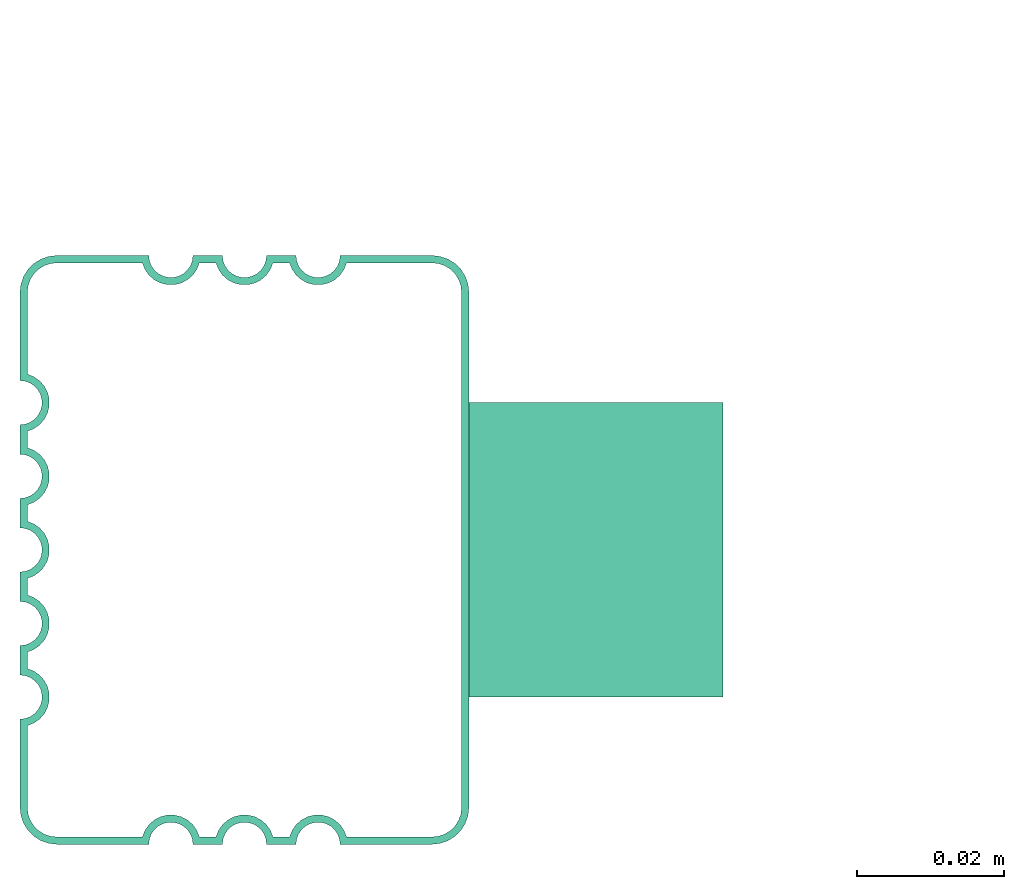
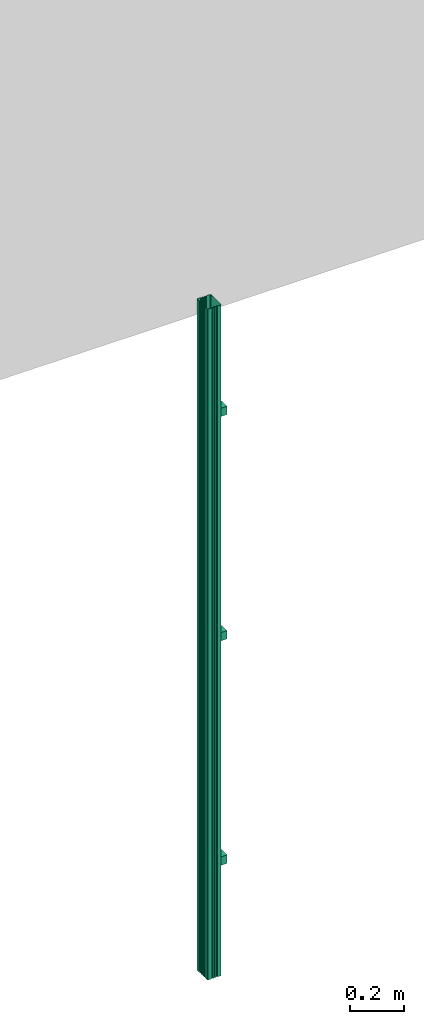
# One storey, part 4 of 5: 1 flow terminal.
"""IFC2X3 building model written with IfcOpenShell, lengths in metres."""

from ifc_helpers import new_model, entity, si_unit, converted_unit, derived_unit, direction, frame, frame_2d, origin, origin_2d_with_axis, place, context, subcontext, project, spatial, polyline, circle_curve, parameter, trimmed, segment, composite_curve, rectangle, outline, extrude, source, transform, mapped, material, type_object, type_shapes, element, save


model = new_model("IFC2X3")

# Units and contexts
model_context = context("Model", 3, precision=1e-05, world=origin(), true_north=direction((6.123031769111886e-17, 1.0)))
body_context = subcontext(model_context, "Body", "Model", "MODEL_VIEW")
ifc_project = project(units=[si_unit("LENGTHUNIT", "METRE"), si_unit("AREAUNIT", "SQUARE_METRE"), si_unit("VOLUMEUNIT", "CUBIC_METRE"), converted_unit("PLANEANGLEUNIT", "DEGREE", entity("IfcRatioMeasure", 0.017453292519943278), si_unit("PLANEANGLEUNIT", "RADIAN"), dimensions=[0, 0, 0, 0, 0, 0, 0]), si_unit("MASSUNIT", "GRAM", prefix="KILO"), derived_unit("MASSDENSITYUNIT", [(si_unit("MASSUNIT", "GRAM", prefix="KILO"), 1), (si_unit("LENGTHUNIT", "METRE"), -3)]), derived_unit("IONCONCENTRATIONUNIT", [(si_unit("MASSUNIT", "GRAM", prefix="KILO"), 1), (si_unit("LENGTHUNIT", "METRE"), -3)]), derived_unit("MOMENTOFINERTIAUNIT", [(si_unit("LENGTHUNIT", "METRE"), 4)]), si_unit("TIMEUNIT", "SECOND"), si_unit("FREQUENCYUNIT", "HERTZ"), si_unit("THERMODYNAMICTEMPERATUREUNIT", "DEGREE_CELSIUS"), derived_unit("THERMALTRANSMITTANCEUNIT", [(si_unit("MASSUNIT", "GRAM", prefix="KILO"), 1), (si_unit("THERMODYNAMICTEMPERATUREUNIT", "KELVIN"), -1), (si_unit("TIMEUNIT", "SECOND"), -3)]), derived_unit("THERMALCONDUCTANCEUNIT", [(si_unit("MASSUNIT", "GRAM", prefix="KILO"), 1), (si_unit("THERMODYNAMICTEMPERATUREUNIT", "KELVIN"), -1), (si_unit("TIMEUNIT", "SECOND"), -3), (si_unit("LENGTHUNIT", "METRE"), 1)]), derived_unit("VOLUMETRICFLOWRATEUNIT", [(si_unit("LENGTHUNIT", "METRE"), 3), (si_unit("TIMEUNIT", "SECOND"), -1)]), derived_unit("MASSFLOWRATEUNIT", [(si_unit("MASSUNIT", "GRAM", prefix="KILO"), 1), (si_unit("TIMEUNIT", "SECOND"), -1)]), derived_unit("ROTATIONALFREQUENCYUNIT", [(si_unit("TIMEUNIT", "SECOND"), -1)]), si_unit("ELECTRICCURRENTUNIT", "AMPERE"), si_unit("ELECTRICVOLTAGEUNIT", "VOLT"), si_unit("POWERUNIT", "WATT"), si_unit("FORCEUNIT", "NEWTON", prefix="KILO"), si_unit("ILLUMINANCEUNIT", "LUX"), si_unit("LUMINOUSFLUXUNIT", "LUMEN"), si_unit("LUMINOUSINTENSITYUNIT", "CANDELA"), derived_unit("USERDEFINED", [(si_unit("MASSUNIT", "GRAM", prefix="KILO"), -1), (si_unit("LENGTHUNIT", "METRE"), -2), (si_unit("TIMEUNIT", "SECOND"), 3), (si_unit("LUMINOUSFLUXUNIT", "LUMEN"), 1)]), derived_unit("USERDEFINED", [(si_unit("MASSUNIT", "GRAM", prefix="KILO"), 1), (si_unit("TIMEUNIT", "SECOND"), -3), (si_unit("LENGTHUNIT", "METRE"), 3), (si_unit("ELECTRICCURRENTUNIT", "AMPERE"), -2)]), derived_unit("SOUNDPOWERUNIT", [(si_unit("MASSUNIT", "GRAM", prefix="KILO"), 1), (si_unit("TIMEUNIT", "SECOND"), -3), (si_unit("LENGTHUNIT", "METRE"), 2)]), derived_unit("SOUNDPRESSUREUNIT", [(si_unit("MASSUNIT", "GRAM", prefix="KILO"), 1), (si_unit("LENGTHUNIT", "METRE"), -1), (si_unit("TIMEUNIT", "SECOND"), -2)]), derived_unit("LINEARVELOCITYUNIT", [(si_unit("LENGTHUNIT", "METRE"), 1), (si_unit("TIMEUNIT", "SECOND"), -1)]), si_unit("PRESSUREUNIT", "PASCAL"), derived_unit("USERDEFINED", [(si_unit("MASSUNIT", "GRAM", prefix="KILO"), 1), (si_unit("LENGTHUNIT", "METRE"), -2), (si_unit("TIMEUNIT", "SECOND"), -2)]), derived_unit("LINEARFORCEUNIT", [(si_unit("MASSUNIT", "GRAM", prefix="KILO"), 1), (si_unit("TIMEUNIT", "SECOND"), -2)]), derived_unit("PLANARFORCEUNIT", [(si_unit("MASSUNIT", "GRAM", prefix="KILO"), 1), (si_unit("LENGTHUNIT", "METRE"), -1), (si_unit("TIMEUNIT", "SECOND"), -2)]), derived_unit("SPECIFICHEATCAPACITYUNIT", [(si_unit("THERMODYNAMICTEMPERATUREUNIT", "KELVIN"), -1), (si_unit("LENGTHUNIT", "METRE"), 2), (si_unit("TIMEUNIT", "SECOND"), -2)]), derived_unit("HEATINGVALUEUNIT", [(si_unit("LENGTHUNIT", "METRE"), 2), (si_unit("TIMEUNIT", "SECOND"), -2)]), derived_unit("VAPORPERMEABILITYUNIT", [(si_unit("LENGTHUNIT", "METRE"), -1), (si_unit("TIMEUNIT", "SECOND"), 1)]), derived_unit("DYNAMICVISCOSITYUNIT", [(si_unit("MASSUNIT", "GRAM", prefix="KILO"), 1), (si_unit("TIMEUNIT", "SECOND"), -1), (si_unit("LENGTHUNIT", "METRE"), -1)]), derived_unit("THERMALEXPANSIONCOEFFICIENTUNIT", [(si_unit("THERMODYNAMICTEMPERATUREUNIT", "KELVIN"), -1)]), derived_unit("MODULUSOFELASTICITYUNIT", [(si_unit("MASSUNIT", "GRAM", prefix="KILO"), 1), (si_unit("LENGTHUNIT", "METRE"), -1), (si_unit("TIMEUNIT", "SECOND"), -2)]), derived_unit("ISOTHERMALMOISTURECAPACITYUNIT", [(si_unit("LENGTHUNIT", "METRE"), 3), (si_unit("MASSUNIT", "GRAM", prefix="KILO"), -1)]), derived_unit("MOISTUREDIFFUSIVITYUNIT", [(si_unit("TIMEUNIT", "SECOND"), -1), (si_unit("LENGTHUNIT", "METRE"), 2)])], contexts=[model_context])

# Site, building, storey
site_placement = place(None, frame((1.2553507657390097, -0.6266432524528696, -1.0397761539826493), z_axis=(0.0, 0.0, 1.0), x_axis=(-1.0, 0.0, 0.0)))
site = spatial("IfcSite", under=ifc_project, at=site_placement, Name="Default", CompositionType="ELEMENT")
building_placement = place(site_placement, origin())
building = spatial("IfcBuilding", under=site, at=building_placement, Name="MAISON D'HABITATION", CompositionType="ELEMENT")
storey_placement = place(building_placement, frame((0.0, 0.0, 0.9097761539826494)))
storey = spatial("IfcBuildingStorey", under=building, at=storey_placement, Name="Niveau Dalle ↑", CompositionType="ELEMENT", Elevation=0.9097761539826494)

# Flow terminal
ifc_material = material(Name="<Unnamed>")
distribution_element_type = type_object("IfcDistributionElementType", Name="Descente Gouttière rectangle:Descente Gouttière rectangle", material=ifc_material)
shared_shape = source(origin(), body_context, "Body", "SweptSolid", [
    extrude(rectangle(XDim=0.0349999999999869, YDim=0.04, at=origin_2d_with_axis()), frame((0.0066970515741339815, -0.8126588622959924, 1.4918658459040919), z_axis=(0.0, 0.0, 1.0), x_axis=(0.0, 1.0, 0.0)), (0.0, 0.0, 1.0), 0.037768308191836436),
    extrude(rectangle(XDim=0.0349999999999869, YDim=0.04, at=origin_2d_with_axis()), frame((0.00669705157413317, -0.8126588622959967, 2.5026158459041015), z_axis=(0.0, 0.0, 1.0), x_axis=(0.0, 1.0, 0.0)), (0.0, 0.0, 1.0), 0.037768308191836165),
    extrude(rectangle(XDim=0.0349999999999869, YDim=0.04, at=origin_2d_with_axis()), frame((0.0066970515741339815, -0.8126588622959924, 0.48111584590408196), z_axis=(0.0, 0.0, 1.0), x_axis=(0.0, 1.0, 0.0)), (0.0, 0.0, 1.0), 0.037768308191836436),
    extrude(outline(composite_curve([segment(polyline([(-0.022999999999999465, 0.020333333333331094), (-0.03499999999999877, 0.020333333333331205)]), True, "CONTINUOUS"), segment(trimmed(circle_curve(frame_2d((-0.03499999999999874, 0.015333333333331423), x_axis=(1.0, 0.0)), 0.00499999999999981), [parameter(90.00000000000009)], [parameter(180.00000000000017)], True, "PARAMETER"), True, "CONTINUOUS"), segment(polyline([(-0.03999999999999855, 0.015333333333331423), (-0.03999999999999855, 0.002833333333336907)]), True, "CONTINUOUS"), segment(trimmed(circle_curve(frame_2d((-0.03999999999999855, -0.00016666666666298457), x_axis=(1.0, 0.0)), 0.0029999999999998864), [parameter(270.00000000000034)], [parameter(90.0000000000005)], True, "PARAMETER"), False, "CONTINUOUS"), segment(polyline([(-0.03999999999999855, -0.003166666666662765), (-0.03999999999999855, -0.007166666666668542)]), True, "CONTINUOUS"), segment(trimmed(circle_curve(frame_2d((-0.03999999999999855, -0.010166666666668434), x_axis=(1.0, 0.0)), 0.0029999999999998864), [parameter(270.00000000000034)], [parameter(90.0000000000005)], True, "PARAMETER"), False, "CONTINUOUS"), segment(polyline([(-0.03999999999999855, -0.013166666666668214), (-0.03999999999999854, -0.017166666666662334)]), True, "CONTINUOUS"), segment(trimmed(circle_curve(frame_2d((-0.03999999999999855, -0.020166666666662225), x_axis=(1.0, 0.0)), 0.0029999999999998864), [parameter(269.9999999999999)], [parameter(90.00000000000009)], True, "PARAMETER"), False, "CONTINUOUS"), segment(polyline([(-0.03999999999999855, -0.023166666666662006), (-0.03999999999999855, -0.03566666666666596)]), True, "CONTINUOUS"), segment(trimmed(circle_curve(frame_2d((-0.034999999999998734, -0.03566666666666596), x_axis=(1.0, 0.0)), 0.00499999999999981), [parameter(180.00000000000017)], [parameter(270.0)], True, "PARAMETER"), True, "CONTINUOUS"), segment(polyline([(-0.03499999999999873, -0.04066666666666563), (0.034999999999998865, -0.04066666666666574)]), True, "CONTINUOUS"), segment(trimmed(circle_curve(frame_2d((0.03499999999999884, -0.03566666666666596), x_axis=(1.0, 0.0)), 0.00499999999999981), [parameter(269.9999999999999)], [parameter(0.0)], True, "PARAMETER"), True, "CONTINUOUS"), segment(polyline([(0.039999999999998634, -0.03566666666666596), (0.03999999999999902, -0.023166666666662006)]), True, "CONTINUOUS"), segment(trimmed(circle_curve(frame_2d((0.03999999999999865, -0.020166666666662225), x_axis=(1.0, 0.0)), 0.0029999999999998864), [parameter(90.00000000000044)], [parameter(270.00000000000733)], True, "PARAMETER"), False, "CONTINUOUS"), segment(polyline([(0.03999999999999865, -0.017166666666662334), (0.039999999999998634, -0.013166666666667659)]), True, "CONTINUOUS"), segment(trimmed(circle_curve(frame_2d((0.03999999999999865, -0.010166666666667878), x_axis=(1.0, 0.0)), 0.0029999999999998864), [parameter(90.00000000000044)], [parameter(269.9999999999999)], True, "PARAMETER"), False, "CONTINUOUS"), segment(polyline([(0.039999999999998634, -0.007166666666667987), (0.03999999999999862, -0.003166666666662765)]), True, "CONTINUOUS"), segment(trimmed(circle_curve(frame_2d((0.039999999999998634, -0.00016666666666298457), x_axis=(1.0, 0.0)), 0.0029999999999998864), [parameter(89.99999999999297)], [parameter(269.9999999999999)], True, "PARAMETER"), False, "CONTINUOUS"), segment(polyline([(0.03999999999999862, 0.002833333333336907), (0.03999999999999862, 0.015333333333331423)]), True, "CONTINUOUS"), segment(trimmed(circle_curve(frame_2d((0.03499999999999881, 0.015333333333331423), x_axis=(1.0, 0.0)), 0.00499999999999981), [parameter(0.0)], [parameter(90.00000000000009)], True, "PARAMETER"), True, "CONTINUOUS"), segment(polyline([(0.03499999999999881, 0.020333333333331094), (0.022999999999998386, 0.020333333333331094)]), True, "CONTINUOUS"), segment(trimmed(circle_curve(frame_2d((0.0199999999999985, 0.020333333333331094), x_axis=(1.0, 0.0)), 0.0029999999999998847), [parameter(179.99999999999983)], [parameter(0.0)], True, "PARAMETER"), False, "CONTINUOUS"), segment(polyline([(0.016999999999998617, 0.020333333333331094), (0.01299999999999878, 0.020333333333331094)]), True, "CONTINUOUS"), segment(trimmed(circle_curve(frame_2d((0.009999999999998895, 0.020333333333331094), x_axis=(1.0, 0.0)), 0.0029999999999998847), [parameter(179.99999999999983)], [parameter(0.0)], True, "PARAMETER"), False, "CONTINUOUS"), segment(polyline([(0.006999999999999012, 0.020333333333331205), (0.0030000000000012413, 0.020333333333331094)]), True, "CONTINUOUS"), segment(trimmed(circle_curve(frame_2d((0.0, 0.020333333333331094), x_axis=(1.0, 0.0)), 0.0029999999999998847), [parameter(179.99999999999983)], [parameter(0.0)], True, "PARAMETER"), False, "CONTINUOUS"), segment(polyline([(-0.002999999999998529, 0.020333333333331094), (-0.007000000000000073, 0.020333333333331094)]), True, "CONTINUOUS"), segment(trimmed(circle_curve(frame_2d((-0.009999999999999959, 0.020333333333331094), x_axis=(1.0, 0.0)), 0.0029999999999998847), [parameter(179.99999999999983)], [parameter(0.0)], True, "PARAMETER"), False, "CONTINUOUS"), segment(polyline([(-0.012999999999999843, 0.020333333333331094), (-0.016999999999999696, 0.020333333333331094)]), True, "CONTINUOUS"), segment(trimmed(circle_curve(frame_2d((-0.01999999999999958, 0.020333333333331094), x_axis=(1.0, 0.0)), 0.0029999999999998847), [parameter(179.99999999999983)], [parameter(0.0)], True, "PARAMETER"), False, "CONTINUOUS")], self_intersect=False), holes=[composite_curve([segment(trimmed(circle_curve(frame_2d((-0.01999999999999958, 0.020333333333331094), x_axis=(1.0, 0.0)), 0.0039999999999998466), [parameter(194.47751218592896)], [parameter(345.52248781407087)], True, "PARAMETER"), True, "CONTINUOUS"), segment(polyline([(-0.0161270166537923, 0.019333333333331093), (-0.013872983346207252, 0.019333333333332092)]), True, "CONTINUOUS"), segment(trimmed(circle_curve(frame_2d((-0.009999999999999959, 0.020333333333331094), x_axis=(1.0, 0.0)), 0.0039999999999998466), [parameter(194.47751218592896)], [parameter(345.52248781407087)], True, "PARAMETER"), True, "CONTINUOUS"), segment(polyline([(-0.006127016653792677, 0.019333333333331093), (-0.0038729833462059, 0.019333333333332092)]), True, "CONTINUOUS"), segment(trimmed(circle_curve(frame_2d((0.0, 0.020333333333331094), x_axis=(1.0, 0.0)), 0.0039999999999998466), [parameter(194.47751218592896)], [parameter(345.52248781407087)], True, "PARAMETER"), True, "CONTINUOUS"), segment(polyline([(0.0038729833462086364, 0.019333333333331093), (0.006127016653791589, 0.019333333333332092)]), True, "CONTINUOUS"), segment(trimmed(circle_curve(frame_2d((0.009999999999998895, 0.020333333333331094), x_axis=(1.0, 0.0)), 0.0039999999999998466), [parameter(194.47751218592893)], [parameter(345.5224878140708)], True, "PARAMETER"), True, "CONTINUOUS"), segment(polyline([(0.01387298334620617, 0.019333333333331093), (0.016127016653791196, 0.019333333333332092)]), True, "CONTINUOUS"), segment(trimmed(circle_curve(frame_2d((0.0199999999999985, 0.020333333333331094), x_axis=(1.0, 0.0)), 0.0039999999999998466), [parameter(194.47751218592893)], [parameter(345.5224878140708)], True, "PARAMETER"), True, "CONTINUOUS"), segment(polyline([(0.023872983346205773, 0.019333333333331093), (0.03499999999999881, 0.019333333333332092)]), True, "CONTINUOUS"), segment(trimmed(circle_curve(frame_2d((0.03499999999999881, 0.015333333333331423), x_axis=(1.0, 0.0)), 0.003999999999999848), [parameter(0.0)], [parameter(90.00000000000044)], True, "PARAMETER"), False, "CONTINUOUS"), segment(polyline([(0.03899999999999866, 0.015333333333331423), (0.03899999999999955, 0.0037063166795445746)]), True, "CONTINUOUS"), segment(trimmed(circle_curve(frame_2d((0.039999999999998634, -0.00016666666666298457), x_axis=(1.0, 0.0)), 0.003999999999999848), [parameter(104.47751218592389)], [parameter(255.52248781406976)], True, "PARAMETER"), True, "CONTINUOUS"), segment(polyline([(0.03899999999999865, -0.004039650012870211), (0.03899999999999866, -0.006293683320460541)]), True, "CONTINUOUS"), segment(trimmed(circle_curve(frame_2d((0.03999999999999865, -0.010166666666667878), x_axis=(1.0, 0.0)), 0.003999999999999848), [parameter(104.47751218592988)], [parameter(255.52248781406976)], True, "PARAMETER"), True, "CONTINUOUS"), segment(polyline([(0.03899999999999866, -0.014039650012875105), (0.03899999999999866, -0.016293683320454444)]), True, "CONTINUOUS"), segment(trimmed(circle_curve(frame_2d((0.03999999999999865, -0.020166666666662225), x_axis=(1.0, 0.0)), 0.003999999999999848), [parameter(104.47751218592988)], [parameter(255.52248781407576)], True, "PARAMETER"), True, "CONTINUOUS"), segment(polyline([(0.03899999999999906, -0.024039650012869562), (0.03899999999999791, -0.03566666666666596)]), True, "CONTINUOUS"), segment(trimmed(circle_curve(frame_2d((0.03499999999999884, -0.03566666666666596), x_axis=(1.0, 0.0)), 0.003999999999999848), [parameter(270.0000000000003)], [parameter(0.0)], True, "PARAMETER"), False, "CONTINUOUS"), segment(polyline([(0.03499999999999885, -0.03966666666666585), (-0.034999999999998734, -0.039666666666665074)]), True, "CONTINUOUS"), segment(trimmed(circle_curve(frame_2d((-0.034999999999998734, -0.03566666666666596), x_axis=(1.0, 0.0)), 0.003999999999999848), [parameter(179.99999999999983)], [parameter(270.0)], True, "PARAMETER"), False, "CONTINUOUS"), segment(polyline([(-0.03899999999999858, -0.03566666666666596), (-0.03899999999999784, -0.02403965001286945)]), True, "CONTINUOUS"), segment(trimmed(circle_curve(frame_2d((-0.03999999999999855, -0.020166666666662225), x_axis=(1.0, 0.0)), 0.003999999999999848), [parameter(284.47751218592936)], [parameter(75.52248781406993)], True, "PARAMETER"), True, "CONTINUOUS"), segment(polyline([(-0.038999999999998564, -0.016293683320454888), (-0.03899999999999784, -0.01403965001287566)]), True, "CONTINUOUS"), segment(trimmed(circle_curve(frame_2d((-0.03999999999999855, -0.010166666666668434), x_axis=(1.0, 0.0)), 0.003999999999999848), [parameter(284.4775121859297)], [parameter(75.52248781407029)], True, "PARAMETER"), True, "CONTINUOUS"), segment(polyline([(-0.03899999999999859, -0.0062936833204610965), (-0.03899999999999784, -0.004039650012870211)]), True, "CONTINUOUS"), segment(trimmed(circle_curve(frame_2d((-0.03999999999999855, -0.00016666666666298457), x_axis=(1.0, 0.0)), 0.003999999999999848), [parameter(284.4775121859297)], [parameter(75.52248781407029)], True, "PARAMETER"), True, "CONTINUOUS"), segment(polyline([(-0.03899999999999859, 0.0037063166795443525), (-0.03899999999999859, 0.015333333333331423)]), True, "CONTINUOUS"), segment(trimmed(circle_curve(frame_2d((-0.03499999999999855, 0.015333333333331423), x_axis=(1.0, 0.0)), 0.003999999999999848), [parameter(90.00000000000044)], [parameter(179.99999999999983)], True, "PARAMETER"), False, "CONTINUOUS"), segment(polyline([(-0.034999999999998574, 0.019333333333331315), (-0.023872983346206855, 0.019333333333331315)]), True, "CONTINUOUS")], self_intersect=False)]), frame((0.006697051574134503, -0.8703255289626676, 0.0), z_axis=(0.0, 0.0, -1.0), x_axis=(1.0, 0.0, 0.0)), (0.0, 0.0, -1.0), 3.0214999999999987),
])
type_shapes(distribution_element_type, [shared_shape])
flow_terminal_placement = place(storey_placement, frame((3.5449741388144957, 3.1294859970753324, -0.2), z_axis=(0.0, 0.0, 1.0), x_axis=(0.0, 1.0, 0.0)))
element("IfcFlowTerminal", 1, at=flow_terminal_placement, inside=storey, type_object=distribution_element_type, material=ifc_material, Name="Descente Gouttière rectangle:Descente Gouttière rectangle", ObjectType="Descente Gouttière rectangle:Descente Gouttière rectangle", context=body_context, shape_type="MappedRepresentation", body=[
    mapped(shared_shape, transform((0.0, 0.0, 0.0), scale=1.0)),
])

save(model, "model.ifc")
